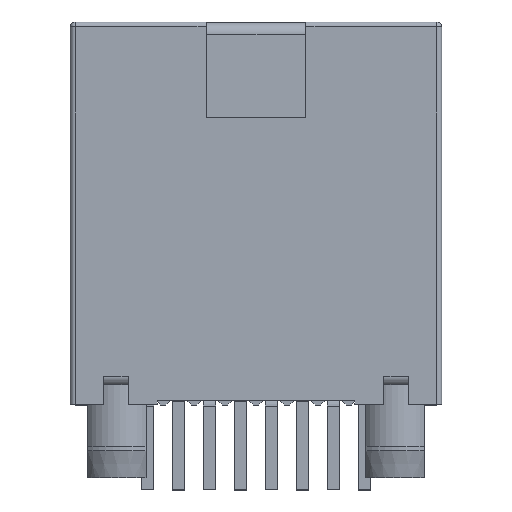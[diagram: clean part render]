
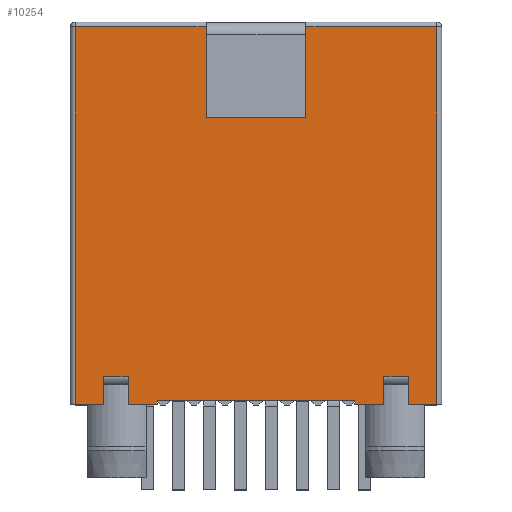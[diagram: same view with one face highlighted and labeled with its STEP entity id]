
A CAD part, top view. The second image highlights one B-rep face of the part: STEP entity #10254.
In plain terms, the highlighted planar face has unit normal (0, 0, 1).
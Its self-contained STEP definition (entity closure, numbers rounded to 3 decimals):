
#493=DIRECTION('',(0.,-1.,0.));
#494=VECTOR('',#493,15.5);
#495=CARTESIAN_POINT('',(4.157,12.092,-7.083));
#496=LINE('',#495,#494);
#505=DIRECTION('',(0.,1.,0.));
#506=VECTOR('',#505,15.5);
#507=CARTESIAN_POINT('',(19.007,-3.408,-7.083));
#508=LINE('',#507,#506);
#521=DIRECTION('',(1.,0.,0.));
#522=VECTOR('',#521,1.175);
#523=CARTESIAN_POINT('',(17.832,-3.408,-7.083));
#524=LINE('',#523,#522);
#4224=DIRECTION('',(0.,1.,0.));
#4225=VECTOR('',#4224,3.7);
#4226=CARTESIAN_POINT('',(9.532,8.392,-7.083));
#4227=LINE('',#4226,#4225);
#4543=DIRECTION('',(0.,-1.,0.));
#4544=VECTOR('',#4543,3.7);
#4545=CARTESIAN_POINT('',(13.632,12.092,-7.083));
#4546=LINE('',#4545,#4544);
#4568=DIRECTION('',(-1.,0.,0.));
#4569=VECTOR('',#4568,5.375);
#4570=CARTESIAN_POINT('',(19.007,12.092,-7.083));
#4571=LINE('',#4570,#4569);
#4652=DIRECTION('',(-1.,0.,0.));
#4653=VECTOR('',#4652,5.375);
#4654=CARTESIAN_POINT('',(9.532,12.092,-7.083));
#4655=LINE('',#4654,#4653);
#4718=DIRECTION('',(-1.,0.,0.));
#4719=VECTOR('',#4718,4.1);
#4720=CARTESIAN_POINT('',(13.632,8.392,-7.083));
#4721=LINE('',#4720,#4719);
#4751=DIRECTION('',(1.,0.,0.));
#4752=VECTOR('',#4751,1.175);
#4753=CARTESIAN_POINT('',(4.157,-3.408,
-7.083));
#4754=LINE('',#4753,#4752);
#4808=DIRECTION('',(0.,1.,0.));
#4809=VECTOR('',#4808,1.15);
#4810=CARTESIAN_POINT('',(5.332,-3.408,
-7.083));
#4811=LINE('',#4810,#4809);
#4826=DIRECTION('',(1.,0.,0.));
#4827=VECTOR('',#4826,1.);
#4828=CARTESIAN_POINT('',(5.332,-2.258,
-7.083));
#4829=LINE('',#4828,#4827);
#4844=DIRECTION('',(0.,-1.,0.));
#4845=VECTOR('',#4844,1.15);
#4846=CARTESIAN_POINT('',(6.332,-2.258,
-7.083));
#4847=LINE('',#4846,#4845);
#4856=DIRECTION('',(1.,0.,0.));
#4857=VECTOR('',#4856,1.2);
#4858=CARTESIAN_POINT('',(6.332,-3.408,
-7.083));
#4859=LINE('',#4858,#4857);
#4880=DIRECTION('',(0.,1.,0.));
#4881=VECTOR('',#4880,0.16);
#4882=CARTESIAN_POINT('',(7.532,-3.408,
-7.083));
#4883=LINE('',#4882,#4881);
#4912=DIRECTION('',(1.,0.,0.));
#4913=VECTOR('',#4912,8.1);
#4914=CARTESIAN_POINT('',(7.532,-3.248,
-7.083));
#4915=LINE('',#4914,#4913);
#4916=DIRECTION('',(0.,-1.,0.));
#4917=VECTOR('',#4916,0.16);
#4918=CARTESIAN_POINT('',(15.632,-3.248,
-7.083));
#4919=LINE('',#4918,#4917);
#4932=DIRECTION('',(1.,0.,0.));
#4933=VECTOR('',#4932,1.2);
#4934=CARTESIAN_POINT('',(15.632,-3.408,
-7.083));
#4935=LINE('',#4934,#4933);
#4948=DIRECTION('',(0.,1.,0.));
#4949=VECTOR('',#4948,1.15);
#4950=CARTESIAN_POINT('',(16.832,-3.408,
-7.083));
#4951=LINE('',#4950,#4949);
#5004=DIRECTION('',(1.,0.,0.));
#5005=VECTOR('',#5004,1.);
#5006=CARTESIAN_POINT('',(16.832,-2.258,
-7.083));
#5007=LINE('',#5006,#5005);
#5022=DIRECTION('',(0.,-1.,0.));
#5023=VECTOR('',#5022,1.15);
#5024=CARTESIAN_POINT('',(17.832,-2.258,
-7.083));
#5025=LINE('',#5024,#5023);
#8294=CARTESIAN_POINT('',(4.157,12.092,-7.083));
#8295=CARTESIAN_POINT('',(4.157,-3.408,
-7.083));
#8296=VERTEX_POINT('',#8294);
#8297=VERTEX_POINT('',#8295);
#8298=CARTESIAN_POINT('',(19.007,-3.408,
-7.083));
#8299=CARTESIAN_POINT('',(19.007,12.092,-7.083));
#8300=VERTEX_POINT('',#8298);
#8301=VERTEX_POINT('',#8299);
#8302=CARTESIAN_POINT('',(13.632,12.092,-7.083));
#8303=VERTEX_POINT('',#8302);
#8304=CARTESIAN_POINT('',(13.632,8.392,-7.083));
#8305=VERTEX_POINT('',#8304);
#8306=CARTESIAN_POINT('',(9.532,8.392,-7.083));
#8307=VERTEX_POINT('',#8306);
#8308=CARTESIAN_POINT('',(9.532,12.092,-7.083));
#8309=VERTEX_POINT('',#8308);
#8310=CARTESIAN_POINT('',(5.332,-3.408,
-7.083));
#8311=VERTEX_POINT('',#8310);
#8312=CARTESIAN_POINT('',(5.332,-2.258,
-7.083));
#8313=VERTEX_POINT('',#8312);
#8314=CARTESIAN_POINT('',(6.332,-2.258,
-7.083));
#8315=VERTEX_POINT('',#8314);
#8316=CARTESIAN_POINT('',(6.332,-3.408,
-7.083));
#8317=VERTEX_POINT('',#8316);
#8318=CARTESIAN_POINT('',(7.532,-3.408,
-7.083));
#8319=VERTEX_POINT('',#8318);
#8320=CARTESIAN_POINT('',(7.532,-3.248,
-7.083));
#8321=VERTEX_POINT('',#8320);
#8322=CARTESIAN_POINT('',(15.632,-3.248,
-7.083));
#8323=VERTEX_POINT('',#8322);
#8324=CARTESIAN_POINT('',(15.632,-3.408,
-7.083));
#8325=VERTEX_POINT('',#8324);
#8326=CARTESIAN_POINT('',(16.832,-3.408,
-7.083));
#8327=VERTEX_POINT('',#8326);
#8328=CARTESIAN_POINT('',(16.832,-2.258,
-7.083));
#8329=VERTEX_POINT('',#8328);
#8330=CARTESIAN_POINT('',(17.832,-2.258,
-7.083));
#8331=VERTEX_POINT('',#8330);
#8332=CARTESIAN_POINT('',(17.832,-3.408,
-7.083));
#8333=VERTEX_POINT('',#8332);
#10208=CARTESIAN_POINT('',(11.582,4.342,
-7.083));
#10209=DIRECTION('',(0.,0.,1.));
#10210=DIRECTION('',(-1.,0.,0.));
#10211=AXIS2_PLACEMENT_3D('',#10208,#10209,#10210);
#10212=PLANE('',#10211);
#10214=ORIENTED_EDGE('',*,*,#10213,.F.);
#10216=ORIENTED_EDGE('',*,*,#10215,.F.);
#10218=ORIENTED_EDGE('',*,*,#10217,.F.);
#10220=ORIENTED_EDGE('',*,*,#10219,.F.);
#10222=ORIENTED_EDGE('',*,*,#10221,.F.);
#10224=ORIENTED_EDGE('',*,*,#10223,.F.);
#10226=ORIENTED_EDGE('',*,*,#10225,.F.);
#10228=ORIENTED_EDGE('',*,*,#10227,.F.);
#10230=ORIENTED_EDGE('',*,*,#10229,.F.);
#10232=ORIENTED_EDGE('',*,*,#10231,.F.);
#10234=ORIENTED_EDGE('',*,*,#10233,.F.);
#10236=ORIENTED_EDGE('',*,*,#10235,.F.);
#10238=ORIENTED_EDGE('',*,*,#10237,.F.);
#10240=ORIENTED_EDGE('',*,*,#10239,.F.);
#10241=ORIENTED_EDGE('',*,*,#10198,.F.);
#10243=ORIENTED_EDGE('',*,*,#10242,.F.);
#10245=ORIENTED_EDGE('',*,*,#10244,.F.);
#10247=ORIENTED_EDGE('',*,*,#10246,.F.);
#10249=ORIENTED_EDGE('',*,*,#10248,.F.);
#10251=ORIENTED_EDGE('',*,*,#10250,.F.);
#10252=EDGE_LOOP('',(#10214,#10216,#10218,#10220,#10222,#10224,#10226,#10228,
#10230,#10232,#10234,#10236,#10238,#10240,#10241,#10243,#10245,#10247,#10249,
#10251));
#10253=FACE_OUTER_BOUND('',#10252,.F.);
#10254=ADVANCED_FACE('',(#10253),#10212,.T.);
#10198=EDGE_CURVE('',#8296,#8297,#496,.T.);
#10213=EDGE_CURVE('',#8300,#8301,#508,.T.);
#10215=EDGE_CURVE('',#8333,#8300,#524,.T.);
#10217=EDGE_CURVE('',#8331,#8333,#5025,.T.);
#10219=EDGE_CURVE('',#8329,#8331,#5007,.T.);
#10221=EDGE_CURVE('',#8327,#8329,#4951,.T.);
#10223=EDGE_CURVE('',#8325,#8327,#4935,.T.);
#10225=EDGE_CURVE('',#8323,#8325,#4919,.T.);
#10227=EDGE_CURVE('',#8321,#8323,#4915,.T.);
#10229=EDGE_CURVE('',#8319,#8321,#4883,.T.);
#10231=EDGE_CURVE('',#8317,#8319,#4859,.T.);
#10233=EDGE_CURVE('',#8315,#8317,#4847,.T.);
#10235=EDGE_CURVE('',#8313,#8315,#4829,.T.);
#10237=EDGE_CURVE('',#8311,#8313,#4811,.T.);
#10239=EDGE_CURVE('',#8297,#8311,#4754,.T.);
#10242=EDGE_CURVE('',#8309,#8296,#4655,.T.);
#10244=EDGE_CURVE('',#8307,#8309,#4227,.T.);
#10246=EDGE_CURVE('',#8305,#8307,#4721,.T.);
#10248=EDGE_CURVE('',#8303,#8305,#4546,.T.);
#10250=EDGE_CURVE('',#8301,#8303,#4571,.T.);
